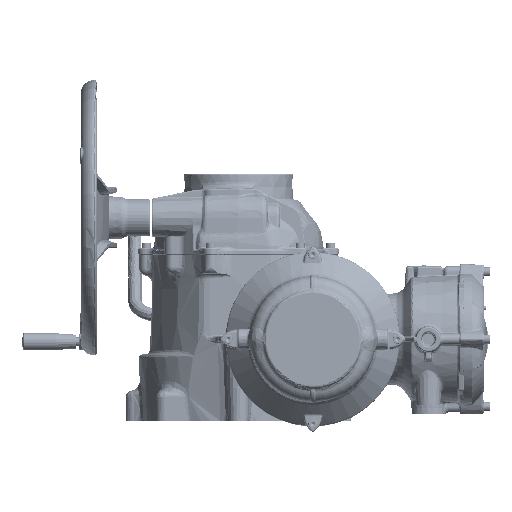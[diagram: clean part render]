
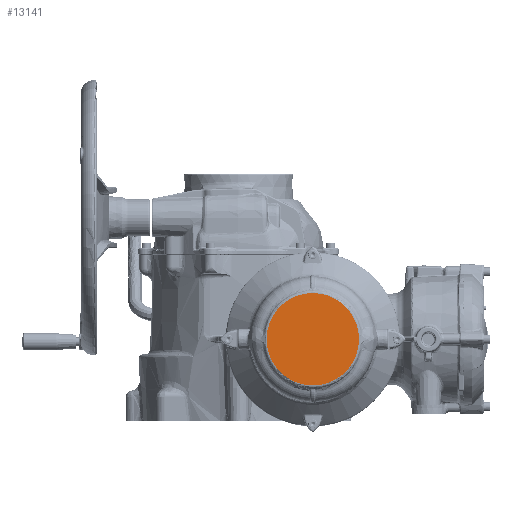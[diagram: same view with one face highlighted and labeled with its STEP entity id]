
A CAD part, left-side view. The second image highlights one B-rep face of the part: STEP entity #13141.
In plain terms, the highlighted planar face has unit normal (-1, 0, 0).
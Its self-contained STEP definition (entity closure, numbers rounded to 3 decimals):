
#13141 = ADVANCED_FACE( '', ( #29657 ), #29658, .T. );
#29657 = FACE_OUTER_BOUND( '', #228217, .T. );
#29658 = PLANE( '', #228218 );
#228217 = EDGE_LOOP( '', ( #415865 ) );
#228218 = AXIS2_PLACEMENT_3D( '', #415866, #415867, #415868 );
#415865 = ORIENTED_EDGE( '', *, *, #456175, .T. );
#415866 = CARTESIAN_POINT( '', ( -487.8, -108., 0. ) );
#415867 = DIRECTION( '', ( -1., 0., 0. ) );
#415868 = DIRECTION( '', ( 0., 0., -1. ) );
#456175 = EDGE_CURVE( '', #485946, #485946, #485947, .T. );
#485946 = VERTEX_POINT( '', #628105 );
#485947 = CIRCLE( '', #628106, 67.19 );
#628105 = CARTESIAN_POINT( '', ( -487.8, -108., -67.19 ) );
#628106 = AXIS2_PLACEMENT_3D( '', #685946, #685947, #685948 );
#685946 = CARTESIAN_POINT( '', ( -487.8, -108., 0. ) );
#685947 = DIRECTION( '', ( -1., 0., 0. ) );
#685948 = DIRECTION( '', ( 0., 0., -1. ) );
